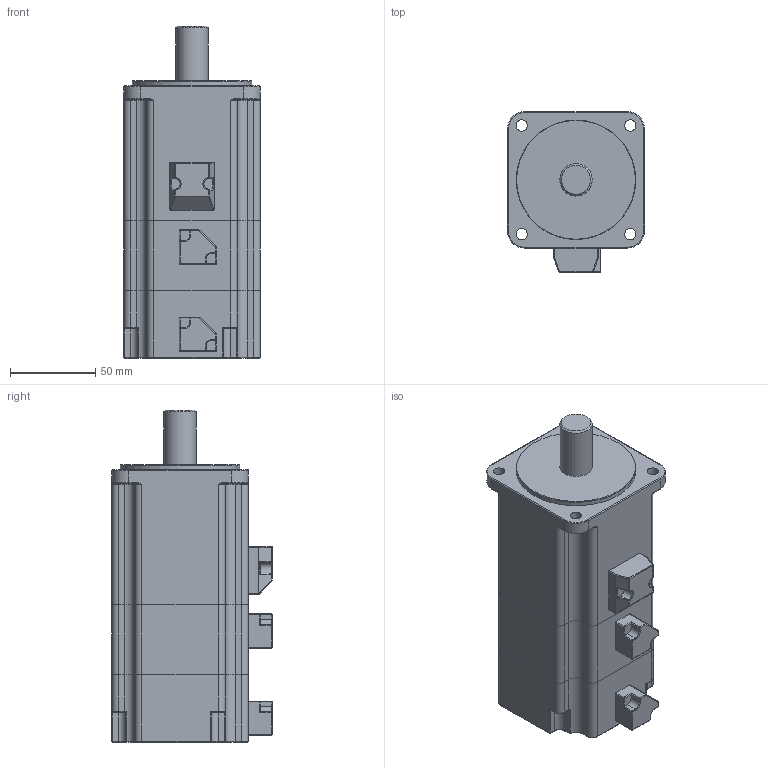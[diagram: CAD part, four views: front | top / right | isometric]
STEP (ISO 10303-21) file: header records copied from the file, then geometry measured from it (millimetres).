
FILE_DESCRIPTION(/* description */ (''),/* implementation_level */ '2;1');
FILE_NAME(/* name */ '80-MSL01330-FZ.stp',/* time_stamp */ '2019-11-22T13:33:29+08:00',/* author */ (''),/* organization */ (''),/* preprocessor_version */ 'ST-DEVELOPER v16',/* originating_system */ 'SIEMENS PLM Software NX 10.0',/* authorisation */ '');
FILE_SCHEMA (('CONFIG_CONTROL_DESIGN'));
Length unit declared in the file: millimetre
Products named in the file (1): 80-MSL01330-FZ
Bounding box: 80 x 94 x 194.5 mm (x, y, z)
Volume: 943745 mm3; surface area: 91604.8 mm2
Topology: 6 solids, 6 shells, 393 faces, 942 edges, 525 vertices
Faces by surface type: cylinder 183, plane 101, torus 54, sphere 36, bspline 17, cone 2
Full cylindrical faces by diameter (mm): 6.6 x4, 19 x1, 70 x1
Entity records: 11241 total; most frequent: CARTESIAN_POINT 2158, DIRECTION 2060, ORIENTED_EDGE 1784, EDGE_CURVE 892, AXIS2_PLACEMENT_3D 815, VERTEX_POINT 521, LINE 430, VECTOR 430
